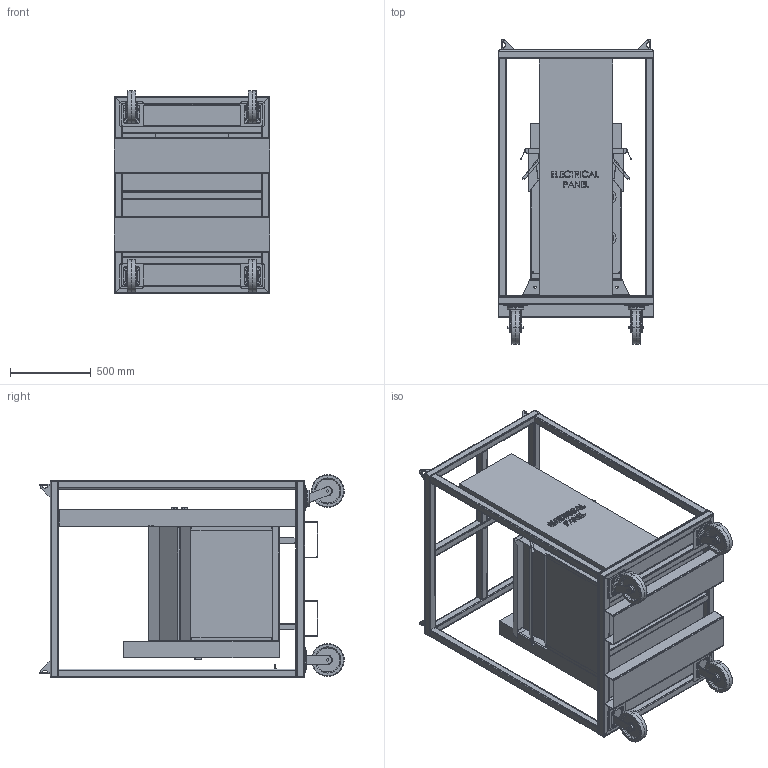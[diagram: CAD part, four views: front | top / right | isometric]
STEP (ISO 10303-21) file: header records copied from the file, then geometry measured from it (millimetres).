
FILE_DESCRIPTION (( 'STEP AP203' ), '1' );
FILE_NAME ('MPD-480V.3PH-75KVA-208Y.120V-12X100A.STEP', '2018-04-04T13:40:09', ( '' ), ( '' ), 'SwSTEP 2.0', 'SolidWorks 2016', '' );
FILE_SCHEMA (( 'CONFIG_CONTROL_DESIGN' ));
Length unit declared in the file: inch
Products named in the file (1): MPD-480V.3PH-75KVA-208Y.120V-12X100A
Bounding box: 965.2 x 1888.05 x 1257.46 mm (x, y, z)
Volume: 155035728.2 mm3; surface area: 22223733.4 mm2
Topology: 61 solids, 61 shells, 1792 faces, 4472 edges, 2888 vertices
Faces by surface type: plane 1021, cylinder 586, bspline 97, torus 48, cone 40
Entity records: 58957 total; most frequent: CARTESIAN_POINT 15942, ORIENTED_EDGE 8944, DIRECTION 8670, EDGE_CURVE 4472, VECTOR 2974, LINE 2974, VERTEX_POINT 2888, AXIS2_PLACEMENT_3D 2848
